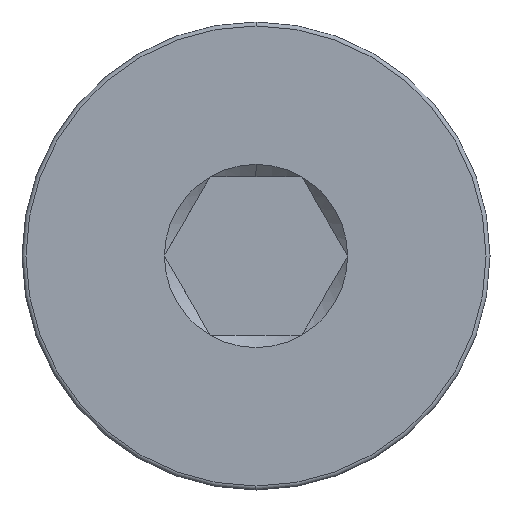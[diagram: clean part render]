
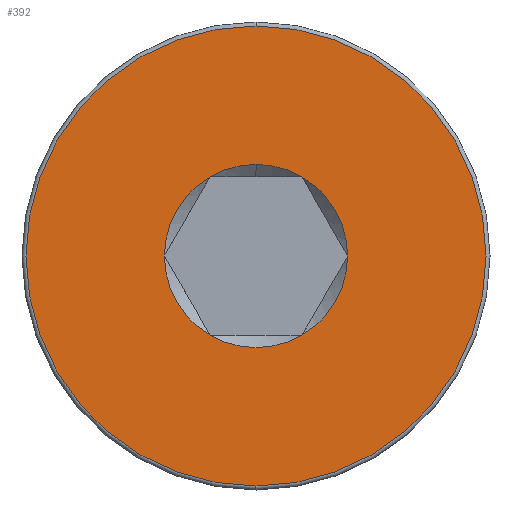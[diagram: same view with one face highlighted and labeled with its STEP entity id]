
A CAD part, left-side view. The second image highlights one B-rep face of the part: STEP entity #392.
In plain terms, the highlighted planar face has unit normal (-1, 0, 0).
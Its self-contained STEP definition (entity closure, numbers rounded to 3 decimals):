
#2 = VERTEX_POINT ( 'NONE', #60 ) ;
#9 = CARTESIAN_POINT ( 'NONE',  ( 0., 0., 2.309 ) ) ;
#12 = AXIS2_PLACEMENT_3D ( 'NONE', #685, #14, #316 ) ;
#14 = DIRECTION ( 'NONE',  ( 1., 0., 0. ) ) ;
#37 = CARTESIAN_POINT ( 'NONE',  ( 0., 0., 0. ) ) ;
#60 = CARTESIAN_POINT ( 'NONE',  ( 0., 2.309, 0. ) ) ;
#72 = VERTEX_POINT ( 'NONE', #519 ) ;
#77 = CIRCLE ( 'NONE', #195, 5.8 ) ;
#78 = FACE_BOUND ( 'NONE', #550, .T. ) ;
#86 = CARTESIAN_POINT ( 'NONE',  ( 0., 0., 5.8 ) ) ;
#99 = CARTESIAN_POINT ( 'NONE',  ( 0., -1.155, -2. ) ) ;
#110 = ORIENTED_EDGE ( 'NONE', *, *, #471, .T. ) ;
#111 = DIRECTION ( 'NONE',  ( 0., 0., -1. ) ) ;
#148 = VERTEX_POINT ( 'NONE', #707 ) ;
#155 = EDGE_CURVE ( 'NONE', #558, #399, #419, .T. ) ;
#164 = VERTEX_POINT ( 'NONE', #356 ) ;
#174 = FACE_OUTER_BOUND ( 'NONE', #284, .T. ) ;
#176 = ORIENTED_EDGE ( 'NONE', *, *, #371, .T. ) ;
#195 = AXIS2_PLACEMENT_3D ( 'NONE', #37, #591, #661 ) ;
#226 = AXIS2_PLACEMENT_3D ( 'NONE', #413, #364, #354 ) ;
#227 = ORIENTED_EDGE ( 'NONE', *, *, #792, .T. ) ;
#230 = DIRECTION ( 'NONE',  ( 0., 0., 1. ) ) ;
#236 = CARTESIAN_POINT ( 'NONE',  ( 0., 0., 0. ) ) ;
#259 = EDGE_CURVE ( 'NONE', #72, #778, #675, .T. ) ;
#268 = CARTESIAN_POINT ( 'NONE',  ( 0., 0., -5.8 ) ) ;
#271 = VERTEX_POINT ( 'NONE', #99 ) ;
#276 = EDGE_CURVE ( 'NONE', #399, #558, #77, .T. ) ;
#284 = EDGE_LOOP ( 'NONE', ( #681, #562 ) ) ;
#304 = DIRECTION ( 'NONE',  ( 0., 0., 1. ) ) ;
#305 = ORIENTED_EDGE ( 'NONE', *, *, #688, .T. ) ;
#316 = DIRECTION ( 'NONE',  ( 0., 0., -1. ) ) ;
#328 = DIRECTION ( 'NONE',  ( -1., 0., 0. ) ) ;
#350 = ORIENTED_EDGE ( 'NONE', *, *, #647, .T. ) ;
#354 = DIRECTION ( 'NONE',  ( 0., 0., -1. ) ) ;
#356 = CARTESIAN_POINT ( 'NONE',  ( 0., -2.309, 0. ) ) ;
#363 = VERTEX_POINT ( 'NONE', #376 ) ;
#364 = DIRECTION ( 'NONE',  ( 1., 0., 0. ) ) ;
#371 = EDGE_CURVE ( 'NONE', #271, #148, #378, .T. ) ;
#376 = CARTESIAN_POINT ( 'NONE',  ( 0., -1.155, 2. ) ) ;
#378 = CIRCLE ( 'NONE', #490, 2.309 ) ;
#390 = CARTESIAN_POINT ( 'NONE',  ( 0., 0., 0. ) ) ;
#392 = ADVANCED_FACE ( 'NONE', ( #174, #78 ), #511, .T. ) ;
#396 = ORIENTED_EDGE ( 'NONE', *, *, #259, .T. ) ;
#399 = VERTEX_POINT ( 'NONE', #86 ) ;
#413 = CARTESIAN_POINT ( 'NONE',  ( 0., 0., 0. ) ) ;
#419 = CIRCLE ( 'NONE', #565, 5.8 ) ;
#421 = CIRCLE ( 'NONE', #725, 2.309 ) ;
#425 = DIRECTION ( 'NONE',  ( 1., 0., 0. ) ) ;
#444 = AXIS2_PLACEMENT_3D ( 'NONE', #534, #470, #652 ) ;
#447 = AXIS2_PLACEMENT_3D ( 'NONE', #477, #425, #111 ) ;
#470 = DIRECTION ( 'NONE',  ( 1., 0., 0. ) ) ;
#471 = EDGE_CURVE ( 'NONE', #2, #72, #421, .T. ) ;
#477 = CARTESIAN_POINT ( 'NONE',  ( 0., 0., 0. ) ) ;
#482 = DIRECTION ( 'NONE',  ( 0., 0., -1. ) ) ;
#490 = AXIS2_PLACEMENT_3D ( 'NONE', #236, #683, #638 ) ;
#492 = CIRCLE ( 'NONE', #594, 2.309 ) ;
#506 = ORIENTED_EDGE ( 'NONE', *, *, #626, .T. ) ;
#511 = PLANE ( 'NONE',  #775 ) ;
#519 = CARTESIAN_POINT ( 'NONE',  ( 0., 1.155, 2. ) ) ;
#524 = DIRECTION ( 'NONE',  ( -1., 0., 0. ) ) ;
#531 = CIRCLE ( 'NONE', #447, 2.309 ) ;
#534 = CARTESIAN_POINT ( 'NONE',  ( 0., 0., 0. ) ) ;
#539 = DIRECTION ( 'NONE',  ( 1., 0., 0. ) ) ;
#550 = EDGE_LOOP ( 'NONE', ( #110, #396, #506, #305, #227, #176, #350 ) ) ;
#558 = VERTEX_POINT ( 'NONE', #268 ) ;
#562 = ORIENTED_EDGE ( 'NONE', *, *, #155, .T. ) ;
#565 = AXIS2_PLACEMENT_3D ( 'NONE', #390, #524, #230 ) ;
#589 = DIRECTION ( 'NONE',  ( 0., 0., -1. ) ) ;
#591 = DIRECTION ( 'NONE',  ( -1., 0., 0. ) ) ;
#594 = AXIS2_PLACEMENT_3D ( 'NONE', #664, #539, #482 ) ;
#626 = EDGE_CURVE ( 'NONE', #778, #363, #740, .T. ) ;
#638 = DIRECTION ( 'NONE',  ( 0., 0., -1. ) ) ;
#642 = DIRECTION ( 'NONE',  ( 1., 0., 0. ) ) ;
#647 = EDGE_CURVE ( 'NONE', #148, #2, #531, .T. ) ;
#652 = DIRECTION ( 'NONE',  ( 0., 0., -1. ) ) ;
#661 = DIRECTION ( 'NONE',  ( 0., 0., 1. ) ) ;
#664 = CARTESIAN_POINT ( 'NONE',  ( 0., 0., 0. ) ) ;
#675 = CIRCLE ( 'NONE', #444, 2.309 ) ;
#681 = ORIENTED_EDGE ( 'NONE', *, *, #276, .T. ) ;
#683 = DIRECTION ( 'NONE',  ( 1., 0., 0. ) ) ;
#685 = CARTESIAN_POINT ( 'NONE',  ( 0., 0., 0. ) ) ;
#688 = EDGE_CURVE ( 'NONE', #363, #164, #492, .T. ) ;
#707 = CARTESIAN_POINT ( 'NONE',  ( 0., 1.155, -2. ) ) ;
#720 = CARTESIAN_POINT ( 'NONE',  ( 0., 0., 0. ) ) ;
#725 = AXIS2_PLACEMENT_3D ( 'NONE', #720, #642, #589 ) ;
#740 = CIRCLE ( 'NONE', #226, 2.309 ) ;
#758 = CARTESIAN_POINT ( 'NONE',  ( 0., 0., 0. ) ) ;
#761 = CIRCLE ( 'NONE', #12, 2.309 ) ;
#775 = AXIS2_PLACEMENT_3D ( 'NONE', #758, #328, #304 ) ;
#778 = VERTEX_POINT ( 'NONE', #9 ) ;
#792 = EDGE_CURVE ( 'NONE', #164, #271, #761, .T. ) ;
